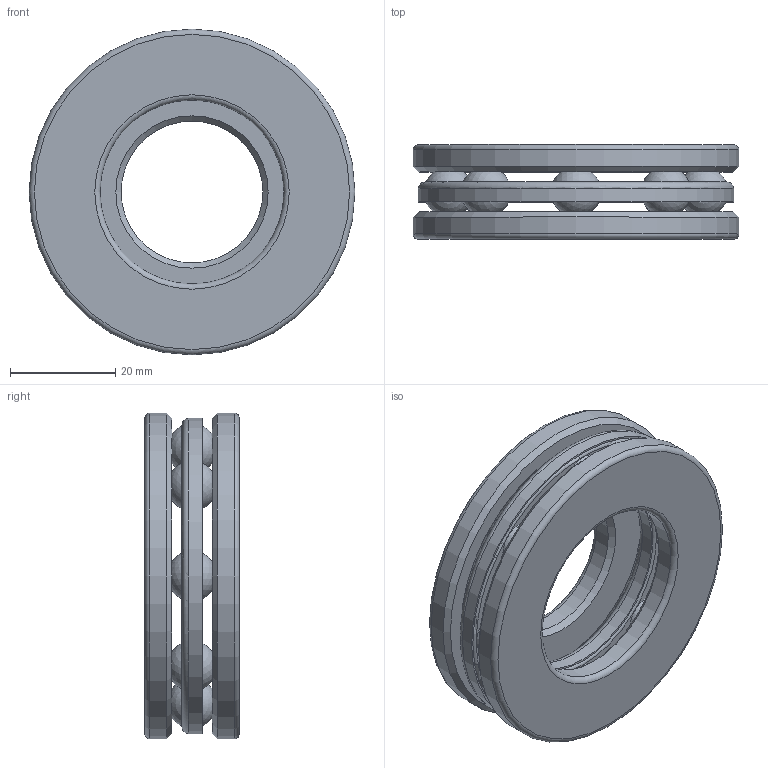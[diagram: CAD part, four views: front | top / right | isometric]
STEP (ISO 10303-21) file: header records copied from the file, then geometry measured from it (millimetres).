
FILE_DESCRIPTION(/* description */ (''),/* implementation_level */ '2;1');
FILE_NAME(/* name */ 'D:\moje\parametrické\512--\512--_\51207.stp',/* time_stamp */ '2016-07-11T14:54:17+02:00',/* author */ ('OUBALASKO'),/* organization */ (''),/* preprocessor_version */ 'ST-DEVELOPER v15.6',/* originating_system */ 'Autodesk Inventor 2015',/* authorisation */ '');
FILE_SCHEMA (('AUTOMOTIVE_DESIGN { 1 0 10303 214 3 1 1 }'));
Length unit declared in the file: millimetre
Products named in the file (7): 51207-HK; 51207-TK; 51207-ball; 51207-cage01; 51207-cage02; 51207-cage; 51207
Assembly tree (13 placements, depth 3):
  51207
    51207-HK
    51207-TK
    51207-ball  x8
    51207-cage
      51207-cage01
      51207-cage02
Bounding box: 62 x 18 x 62 mm (x, y, z)
Volume: 26726.9 mm3; surface area: 21913.7 mm2
Topology: 12 solids, 12 shells, 114 faces, 242 edges, 140 vertices
Faces by surface type: plane 60, sphere 24, torus 14, cylinder 12, cone 4
Full cylindrical faces by diameter (mm): 27 x1, 35 x1, 36.965 x1, 37.632 x1, 37.832 x1, 38.499 x1, 58.501 x1, 59.168 x1, 59.368 x1, 60.035 x1, 62 x2
Entity records: 2956 total; most frequent: DIRECTION 624, CARTESIAN_POINT 434, ORIENTED_EDGE 370, AXIS2_PLACEMENT_3D 312, CIRCLE 185, EDGE_CURVE 185, EDGE_LOOP 181, VERTEX_POINT 122
